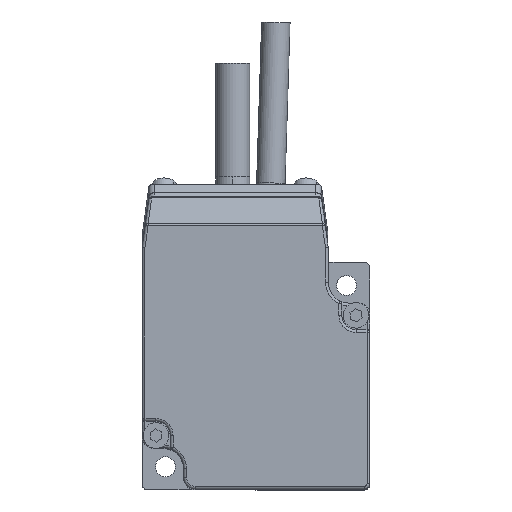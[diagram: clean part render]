
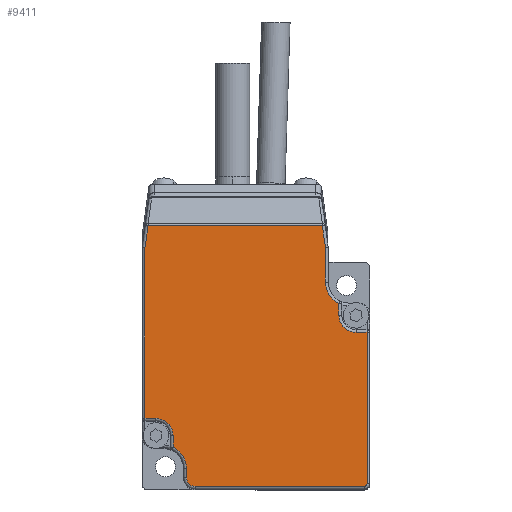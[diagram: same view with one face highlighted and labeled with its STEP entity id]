
A CAD part, top view. The second image highlights one B-rep face of the part: STEP entity #9411.
In plain terms, the highlighted planar face has unit normal (0, 0, 1).
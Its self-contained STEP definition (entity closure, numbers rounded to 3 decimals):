
#6 = DIRECTION ( 'NONE',  ( 1., 0., 0. ) ) ;
#7 = VERTEX_POINT ( 'NONE', #12703 ) ;
#19 = VECTOR ( 'NONE', #2362, 1000. ) ;
#647 = VERTEX_POINT ( 'NONE', #21687 ) ;
#978 = ORIENTED_EDGE ( 'NONE', *, *, #6124, .T. ) ;
#1053 = CIRCLE ( 'NONE', #11107, 4.2 ) ;
#1143 = EDGE_CURVE ( 'NONE', #6482, #18850, #7345, .T. ) ;
#1187 = EDGE_CURVE ( 'NONE', #12078, #21410, #6069, .T. ) ;
#1313 = VECTOR ( 'NONE', #22502, 1000. ) ;
#1408 = DIRECTION ( 'NONE',  ( -0.139, 0.99, 0. ) ) ;
#1818 = LINE ( 'NONE', #20468, #23165 ) ;
#1845 = EDGE_CURVE ( 'NONE', #2738, #24808, #2436, .T. ) ;
#2015 = VERTEX_POINT ( 'NONE', #21311 ) ;
#2096 = ORIENTED_EDGE ( 'NONE', *, *, #24173, .T. ) ;
#2121 = EDGE_CURVE ( 'NONE', #24212, #8500, #25987, .T. ) ;
#2261 = CARTESIAN_POINT ( 'NONE',  ( -27.751, -20.768, 122.033 ) ) ;
#2362 = DIRECTION ( 'NONE',  ( 0., -1., 0. ) ) ;
#2436 = CIRCLE ( 'NONE', #19871, 3. ) ;
#2555 = DIRECTION ( 'NONE',  ( 0., 0., -1. ) ) ;
#2577 = AXIS2_PLACEMENT_3D ( 'NONE', #16058, #11703, #24043 ) ;
#2738 = VERTEX_POINT ( 'NONE', #6032 ) ;
#2795 = VECTOR ( 'NONE', #10345, 1000. ) ;
#2847 = VERTEX_POINT ( 'NONE', #12352 ) ;
#2917 = LINE ( 'NONE', #13506, #25862 ) ;
#2936 = PLANE ( 'NONE',  #12355 ) ;
#3016 = CARTESIAN_POINT ( 'NONE',  ( 3.221, -23.368, 122.033 ) ) ;
#3146 = DIRECTION ( 'NONE',  ( 0., 0., 1. ) ) ;
#3255 = LINE ( 'NONE', #3664, #4819 ) ;
#3304 = DIRECTION ( 'NONE',  ( 0., 0., 1. ) ) ;
#3534 = LINE ( 'NONE', #3016, #21091 ) ;
#3571 = VERTEX_POINT ( 'NONE', #7100 ) ;
#3664 = CARTESIAN_POINT ( 'NONE',  ( -28.923, -11.926, 122.033 ) ) ;
#3705 = VECTOR ( 'NONE', #8091, 1000. ) ;
#4035 = LINE ( 'NONE', #17342, #20049 ) ;
#4209 = DIRECTION ( 'NONE',  ( 0., 0., -1. ) ) ;
#4249 = CARTESIAN_POINT ( 'NONE',  ( -25.923, -14.926, 122.033 ) ) ;
#4288 = CARTESIAN_POINT ( 'NONE',  ( -30.851, -12.426, 122.033 ) ) ;
#4377 = EDGE_CURVE ( 'NONE', #3571, #2015, #1053, .T. ) ;
#4632 = DIRECTION ( 'NONE',  ( 1., 0., 0. ) ) ;
#4819 = VECTOR ( 'NONE', #15626, 1000. ) ;
#4966 = DIRECTION ( 'NONE',  ( 0., 0., 1. ) ) ;
#5416 = DIRECTION ( 'NONE',  ( 0., 1., 0. ) ) ;
#5514 = DIRECTION ( 'NONE',  ( 1., 0., 0. ) ) ;
#5911 = EDGE_CURVE ( 'NONE', #2847, #24212, #21071, .T. ) ;
#6032 = CARTESIAN_POINT ( 'NONE',  ( -28.923, -11.926, 122.033 ) ) ;
#6069 = CIRCLE ( 'NONE', #22207, 4.2 ) ;
#6124 = EDGE_CURVE ( 'NONE', #8660, #24942, #22643, .T. ) ;
#6304 = LINE ( 'NONE', #20257, #19 ) ;
#6482 = VERTEX_POINT ( 'NONE', #10460 ) ;
#6585 = CARTESIAN_POINT ( 'NONE',  ( 6.221, 3.19, 122.033 ) ) ;
#7100 = CARTESIAN_POINT ( 'NONE',  ( 3.221, 8.251, 122.033 ) ) ;
#7234 = CARTESIAN_POINT ( 'NONE',  ( -30.851, 18.097, 122.033 ) ) ;
#7241 = CARTESIAN_POINT ( 'NONE',  ( -30.856, 18.063, 122.033 ) ) ;
#7345 = CIRCLE ( 'NONE', #18180, 1.5 ) ;
#7442 = VERTEX_POINT ( 'NONE', #12591 ) ;
#7494 = EDGE_CURVE ( 'NONE', #21410, #6482, #18155, .T. ) ;
#7794 = EDGE_CURVE ( 'NONE', #2015, #7442, #19080, .T. ) ;
#7921 = VECTOR ( 'NONE', #19316, 1000. ) ;
#7986 = ORIENTED_EDGE ( 'NONE', *, *, #5911, .T. ) ;
#8091 = DIRECTION ( 'NONE',  ( 0., 1., 0. ) ) ;
#8185 = EDGE_CURVE ( 'NONE', #7, #8660, #2917, .T. ) ;
#8500 = VERTEX_POINT ( 'NONE', #23700 ) ;
#8636 = CARTESIAN_POINT ( 'NONE',  ( -25.923, -16.987, 122.033 ) ) ;
#8660 = VERTEX_POINT ( 'NONE', #22185 ) ;
#9101 = ORIENTED_EDGE ( 'NONE', *, *, #2121, .T. ) ;
#9144 = CARTESIAN_POINT ( 'NONE',  ( -23.551, -22.368, 122.033 ) ) ;
#9411 = ADVANCED_FACE ( 'NONE', ( #17936 ), #2936, .T. ) ;
#9593 = AXIS2_PLACEMENT_3D ( 'NONE', #11484, #3304, #5514 ) ;
#9636 = ORIENTED_EDGE ( 'NONE', *, *, #4377, .T. ) ;
#10345 = DIRECTION ( 'NONE',  ( 0., -1., 0. ) ) ;
#10460 = CARTESIAN_POINT ( 'NONE',  ( -23.551, -22.368, 122.033 ) ) ;
#10502 = ORIENTED_EDGE ( 'NONE', *, *, #8185, .T. ) ;
#10756 = EDGE_LOOP ( 'NONE', ( #9101, #2096, #9636, #10894, #24119, #10502, #978, #25725, #13000, #13463, #15335, #17805, #21136, #19092, #14160, #18072, #20556, #7986 ) ) ;
#10894 = ORIENTED_EDGE ( 'NONE', *, *, #7794, .T. ) ;
#11107 = AXIS2_PLACEMENT_3D ( 'NONE', #22878, #16572, #4632 ) ;
#11484 = CARTESIAN_POINT ( 'NONE',  ( 7.649, -23.368, 122.033 ) ) ;
#11507 = DIRECTION ( 'NONE',  ( 0., 1., 0. ) ) ;
#11703 = DIRECTION ( 'NONE',  ( 0., 0., -1. ) ) ;
#12078 = VERTEX_POINT ( 'NONE', #8636 ) ;
#12352 = CARTESIAN_POINT ( 'NONE',  ( 8.149, 3.19, 122.033 ) ) ;
#12355 = AXIS2_PLACEMENT_3D ( 'NONE', #16980, #4966, #18988 ) ;
#12591 = CARTESIAN_POINT ( 'NONE',  ( 0.849, 18.097, 122.033 ) ) ;
#12703 = CARTESIAN_POINT ( 'NONE',  ( 0.311, 21.925, 122.033 ) ) ;
#12787 = EDGE_CURVE ( 'NONE', #16890, #647, #24368, .T. ) ;
#12869 = LINE ( 'NONE', #4288, #2795 ) ;
#13000 = ORIENTED_EDGE ( 'NONE', *, *, #23615, .T. ) ;
#13463 = ORIENTED_EDGE ( 'NONE', *, *, #1845, .T. ) ;
#13483 = VECTOR ( 'NONE', #21054, 1000. ) ;
#13506 = CARTESIAN_POINT ( 'NONE',  ( -30.789, 21.925, 122.033 ) ) ;
#14160 = ORIENTED_EDGE ( 'NONE', *, *, #19057, .T. ) ;
#14475 = DIRECTION ( 'NONE',  ( 1., 0., 0. ) ) ;
#14998 = VERTEX_POINT ( 'NONE', #21867 ) ;
#15335 = ORIENTED_EDGE ( 'NONE', *, *, #25347, .T. ) ;
#15420 = CARTESIAN_POINT ( 'NONE',  ( 7.649, -23.868, 122.033 ) ) ;
#15452 = CARTESIAN_POINT ( 'NONE',  ( 0.292, 22.063, 122.033 ) ) ;
#15626 = DIRECTION ( 'NONE',  ( 1., 0., 0. ) ) ;
#16058 = CARTESIAN_POINT ( 'NONE',  ( 6.221, 6.19, 122.033 ) ) ;
#16314 = VECTOR ( 'NONE', #1408, 1000. ) ;
#16572 = DIRECTION ( 'NONE',  ( 0., 0., -1. ) ) ;
#16614 = DIRECTION ( 'NONE',  ( 1., 0., 0. ) ) ;
#16890 = VERTEX_POINT ( 'NONE', #15420 ) ;
#16980 = CARTESIAN_POINT ( 'NONE',  ( -30.351, -23.368, 122.033 ) ) ;
#17196 = DIRECTION ( 'NONE',  ( 1., 0., 0. ) ) ;
#17342 = CARTESIAN_POINT ( 'NONE',  ( 8.149, 3.69, 122.033 ) ) ;
#17805 = ORIENTED_EDGE ( 'NONE', *, *, #1187, .T. ) ;
#17876 = EDGE_CURVE ( 'NONE', #7442, #7, #24175, .T. ) ;
#17936 = FACE_OUTER_BOUND ( 'NONE', #10756, .T. ) ;
#18072 = ORIENTED_EDGE ( 'NONE', *, *, #12787, .T. ) ;
#18155 = LINE ( 'NONE', #9144, #13483 ) ;
#18180 = AXIS2_PLACEMENT_3D ( 'NONE', #21302, #3146, #17196 ) ;
#18850 = VERTEX_POINT ( 'NONE', #21357 ) ;
#18988 = DIRECTION ( 'NONE',  ( 1., 0., 0. ) ) ;
#19057 = EDGE_CURVE ( 'NONE', #18850, #16890, #1818, .T. ) ;
#19080 = LINE ( 'NONE', #19987, #3705 ) ;
#19092 = ORIENTED_EDGE ( 'NONE', *, *, #1143, .T. ) ;
#19316 = DIRECTION ( 'NONE',  ( -0.139, -0.99, 0. ) ) ;
#19526 = DIRECTION ( 'NONE',  ( -1., 0., 0. ) ) ;
#19871 = AXIS2_PLACEMENT_3D ( 'NONE', #24608, #2555, #16614 ) ;
#19987 = CARTESIAN_POINT ( 'NONE',  ( 0.849, 18.132, 122.033 ) ) ;
#20049 = VECTOR ( 'NONE', #5416, 1000. ) ;
#20257 = CARTESIAN_POINT ( 'NONE',  ( -25.923, -23.368, 122.033 ) ) ;
#20468 = CARTESIAN_POINT ( 'NONE',  ( 7.649, -23.868, 122.033 ) ) ;
#20556 = ORIENTED_EDGE ( 'NONE', *, *, #26054, .T. ) ;
#20658 = CARTESIAN_POINT ( 'NONE',  ( 6.221, 3.19, 122.033 ) ) ;
#21054 = DIRECTION ( 'NONE',  ( 0., -1., 0. ) ) ;
#21071 = LINE ( 'NONE', #20658, #1313 ) ;
#21091 = VECTOR ( 'NONE', #11507, 1000. ) ;
#21136 = ORIENTED_EDGE ( 'NONE', *, *, #7494, .T. ) ;
#21302 = CARTESIAN_POINT ( 'NONE',  ( -22.051, -22.368, 122.033 ) ) ;
#21311 = CARTESIAN_POINT ( 'NONE',  ( 0.849, 12.032, 122.033 ) ) ;
#21357 = CARTESIAN_POINT ( 'NONE',  ( -22.051, -23.868, 122.033 ) ) ;
#21410 = VERTEX_POINT ( 'NONE', #22348 ) ;
#21687 = CARTESIAN_POINT ( 'NONE',  ( 8.149, -23.368, 122.033 ) ) ;
#21867 = CARTESIAN_POINT ( 'NONE',  ( -30.851, -11.926, 122.033 ) ) ;
#22185 = CARTESIAN_POINT ( 'NONE',  ( -30.313, 21.925, 122.033 ) ) ;
#22207 = AXIS2_PLACEMENT_3D ( 'NONE', #2261, #4209, #6 ) ;
#22348 = CARTESIAN_POINT ( 'NONE',  ( -23.551, -20.768, 122.033 ) ) ;
#22502 = DIRECTION ( 'NONE',  ( -1., 0., 0. ) ) ;
#22643 = LINE ( 'NONE', #7241, #7921 ) ;
#22878 = CARTESIAN_POINT ( 'NONE',  ( 5.049, 12.032, 122.033 ) ) ;
#23165 = VECTOR ( 'NONE', #14475, 1000. ) ;
#23615 = EDGE_CURVE ( 'NONE', #14998, #2738, #3255, .T. ) ;
#23700 = CARTESIAN_POINT ( 'NONE',  ( 3.221, 6.19, 122.033 ) ) ;
#24043 = DIRECTION ( 'NONE',  ( 1., 0., 0. ) ) ;
#24119 = ORIENTED_EDGE ( 'NONE', *, *, #17876, .T. ) ;
#24173 = EDGE_CURVE ( 'NONE', #8500, #3571, #3534, .T. ) ;
#24175 = LINE ( 'NONE', #15452, #16314 ) ;
#24212 = VERTEX_POINT ( 'NONE', #6585 ) ;
#24368 = CIRCLE ( 'NONE', #9593, 0.5 ) ;
#24608 = CARTESIAN_POINT ( 'NONE',  ( -28.923, -14.926, 122.033 ) ) ;
#24808 = VERTEX_POINT ( 'NONE', #4249 ) ;
#24942 = VERTEX_POINT ( 'NONE', #7234 ) ;
#25347 = EDGE_CURVE ( 'NONE', #24808, #12078, #6304, .T. ) ;
#25725 = ORIENTED_EDGE ( 'NONE', *, *, #25787, .T. ) ;
#25787 = EDGE_CURVE ( 'NONE', #24942, #14998, #12869, .T. ) ;
#25862 = VECTOR ( 'NONE', #19526, 1000. ) ;
#25987 = CIRCLE ( 'NONE', #2577, 3. ) ;
#26054 = EDGE_CURVE ( 'NONE', #647, #2847, #4035, .T. ) ;
